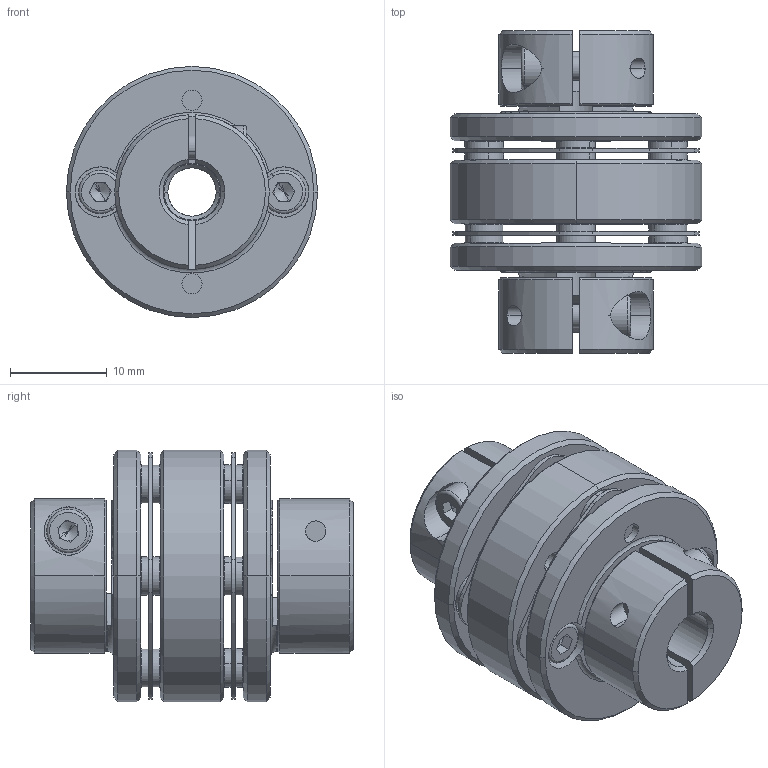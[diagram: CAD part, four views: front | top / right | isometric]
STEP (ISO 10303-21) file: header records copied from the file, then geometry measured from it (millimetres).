
FILE_DESCRIPTION (( 'STEP AP203' ), '1' );
FILE_NAME ('LE2-B-D26L35-5-6.STEP', '2021-11-01T05:42:52', ( '' ), ( '' ), 'SwSTEP 2.0', 'SolidWorks 2018', '' );
FILE_SCHEMA (( 'CONFIG_CONTROL_DESIGN' ));
Length unit declared in the file: millimetre
Products named in the file (1): LE2-B-D26L35-5-6
Bounding box: 26 x 33.4 x 26 mm (x, y, z)
Volume: 7902.3 mm3; surface area: 8425 mm2
Topology: 1 solids, 19 shells, 672 faces, 1560 edges, 938 vertices
Faces by surface type: cylinder 228, plane 218, cone 202, torus 24
Entity records: 19395 total; most frequent: DIRECTION 3628, CARTESIAN_POINT 3491, ORIENTED_EDGE 3080, EDGE_CURVE 1540, AXIS2_PLACEMENT_3D 1467, VERTEX_POINT 938, CIRCLE 794, EDGE_LOOP 782
